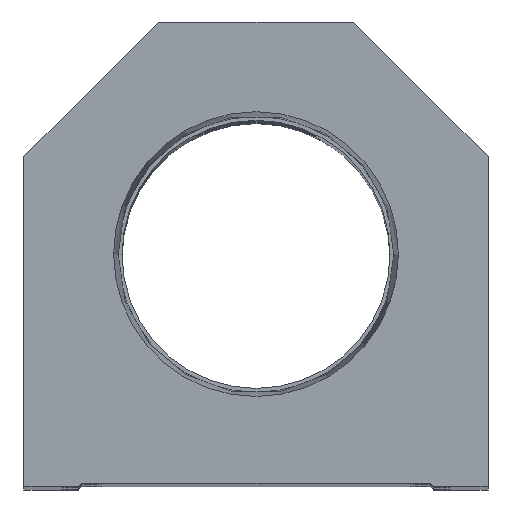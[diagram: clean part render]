
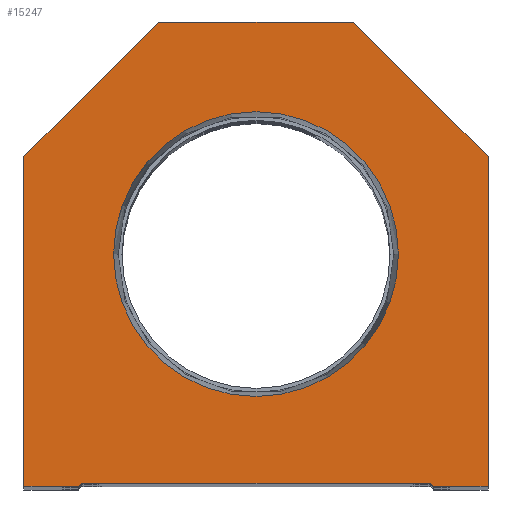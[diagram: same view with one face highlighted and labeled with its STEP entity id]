
A CAD part, top view. The second image highlights one B-rep face of the part: STEP entity #15247.
In plain terms, the highlighted planar face has unit normal (0, 0, 1).
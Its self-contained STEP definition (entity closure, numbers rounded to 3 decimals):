
#139 = CARTESIAN_POINT ( 'NONE',  ( 28.6, 0., 0. ) ) ;
#149 = DIRECTION ( 'NONE',  ( 0., 0., 1. ) ) ;
#168 = CARTESIAN_POINT ( 'NONE',  ( 38.1, 0., 0. ) ) ;
#424 = VECTOR ( 'NONE', #4513, 1000. ) ;
#433 = VERTEX_POINT ( 'NONE', #2419 ) ;
#736 = CARTESIAN_POINT ( 'NONE',  ( -14.55, 14.55, 0. ) ) ;
#828 = VERTEX_POINT ( 'NONE', #1946 ) ;
#1063 = VERTEX_POINT ( 'NONE', #7250 ) ;
#1253 = CARTESIAN_POINT ( 'NONE',  ( 38.1, 0., 0. ) ) ;
#1276 = LINE ( 'NONE', #4170, #12116 ) ;
#1285 = VERTEX_POINT ( 'NONE', #168 ) ;
#1426 = ORIENTED_EDGE ( 'NONE', *, *, #18277, .T. ) ;
#1560 = CARTESIAN_POINT ( 'NONE',  ( -28.6, 0., 0. ) ) ;
#1651 = AXIS2_PLACEMENT_3D ( 'NONE', #2929, #149, #6338 ) ;
#1935 = VECTOR ( 'NONE', #2610, 1000. ) ;
#1946 = CARTESIAN_POINT ( 'NONE',  ( -38.1, 54.1, 0. ) ) ;
#1950 = VECTOR ( 'NONE', #11466, 1000. ) ;
#1962 = CARTESIAN_POINT ( 'NONE',  ( 14.55, 14.55, 0. ) ) ;
#2306 = LINE ( 'NONE', #736, #14983 ) ;
#2419 = CARTESIAN_POINT ( 'NONE',  ( -28.6, 0.5, 0. ) ) ;
#2576 = VECTOR ( 'NONE', #2747, 1000. ) ;
#2610 = DIRECTION ( 'NONE',  ( 1., 0., 0. ) ) ;
#2695 = ORIENTED_EDGE ( 'NONE', *, *, #2775, .T. ) ;
#2747 = DIRECTION ( 'NONE',  ( 0., 1., 0. ) ) ;
#2756 = VERTEX_POINT ( 'NONE', #9316 ) ;
#2775 = EDGE_CURVE ( 'NONE', #1063, #15659, #1276, .T. ) ;
#2848 = VERTEX_POINT ( 'NONE', #3401 ) ;
#2853 = EDGE_LOOP ( 'NONE', ( #16579, #4028 ) ) ;
#2882 = LINE ( 'NONE', #1560, #1935 ) ;
#2929 = CARTESIAN_POINT ( 'NONE',  ( 0., 0., 0. ) ) ;
#2956 = EDGE_CURVE ( 'NONE', #15659, #828, #6217, .T. ) ;
#3401 = CARTESIAN_POINT ( 'NONE',  ( 29.1, 0., 0. ) ) ;
#3488 = ORIENTED_EDGE ( 'NONE', *, *, #11296, .T. ) ;
#3526 = DIRECTION ( 'NONE',  ( 0.707, 0.707, 0. ) ) ;
#3890 = CARTESIAN_POINT ( 'NONE',  ( -38.1, 0., 0. ) ) ;
#4028 = ORIENTED_EDGE ( 'NONE', *, *, #17393, .F. ) ;
#4145 = ORIENTED_EDGE ( 'NONE', *, *, #15908, .T. ) ;
#4170 = CARTESIAN_POINT ( 'NONE',  ( 16., 76.2, 0. ) ) ;
#4418 = LINE ( 'NONE', #139, #424 ) ;
#4513 = DIRECTION ( 'NONE',  ( 1., 0., 0. ) ) ;
#4541 = CARTESIAN_POINT ( 'NONE',  ( 38.1, 54.1, 0. ) ) ;
#5122 = DIRECTION ( 'NONE',  ( -1., 0., 0. ) ) ;
#5126 = EDGE_CURVE ( 'NONE', #433, #18194, #12191, .T. ) ;
#5372 = DIRECTION ( 'NONE',  ( 0., -1., 0. ) ) ;
#5802 = CARTESIAN_POINT ( 'NONE',  ( -23.374, 38.1, 0. ) ) ;
#5899 = VECTOR ( 'NONE', #7656, 1000. ) ;
#5987 = AXIS2_PLACEMENT_3D ( 'NONE', #15565, #8564, #14194 ) ;
#6217 = LINE ( 'NONE', #18141, #6818 ) ;
#6338 = DIRECTION ( 'NONE',  ( 1., 0., 0. ) ) ;
#6509 = EDGE_CURVE ( 'NONE', #18194, #2848, #7472, .T. ) ;
#6818 = VECTOR ( 'NONE', #9672, 1000. ) ;
#6853 = DIRECTION ( 'NONE',  ( 0., 0., 1. ) ) ;
#7040 = ORIENTED_EDGE ( 'NONE', *, *, #6509, .T. ) ;
#7143 = CARTESIAN_POINT ( 'NONE',  ( 28.6, 0.5, 0. ) ) ;
#7250 = CARTESIAN_POINT ( 'NONE',  ( 16., 76.2, 0. ) ) ;
#7472 = LINE ( 'NONE', #1962, #5899 ) ;
#7656 = DIRECTION ( 'NONE',  ( 0.707, -0.707, 0. ) ) ;
#7900 = AXIS2_PLACEMENT_3D ( 'NONE', #9728, #6853, #13614 ) ;
#8167 = LINE ( 'NONE', #1253, #2576 ) ;
#8411 = VECTOR ( 'NONE', #5372, 1000. ) ;
#8564 = DIRECTION ( 'NONE',  ( 0., 0., 1. ) ) ;
#8713 = FACE_BOUND ( 'NONE', #2853, .T. ) ;
#8737 = LINE ( 'NONE', #4541, #1950 ) ;
#9011 = EDGE_LOOP ( 'NONE', ( #18153, #11106, #11182, #7040, #3488, #4145, #1426, #2695, #18012, #10908 ) ) ;
#9168 = EDGE_CURVE ( 'NONE', #10803, #15255, #17223, .T. ) ;
#9316 = CARTESIAN_POINT ( 'NONE',  ( -38.1, 0., 0. ) ) ;
#9532 = CARTESIAN_POINT ( 'NONE',  ( -28.6, 0.5, 0. ) ) ;
#9672 = DIRECTION ( 'NONE',  ( -0.707, -0.707, 0. ) ) ;
#9728 = CARTESIAN_POINT ( 'NONE',  ( 0., 38.1, 0. ) ) ;
#10124 = CARTESIAN_POINT ( 'NONE',  ( 23.374, 38.1, 0. ) ) ;
#10248 = CIRCLE ( 'NONE', #7900, 23.374 ) ;
#10302 = EDGE_CURVE ( 'NONE', #828, #2756, #18039, .T. ) ;
#10803 = VERTEX_POINT ( 'NONE', #10124 ) ;
#10816 = VERTEX_POINT ( 'NONE', #14479 ) ;
#10908 = ORIENTED_EDGE ( 'NONE', *, *, #10302, .T. ) ;
#11106 = ORIENTED_EDGE ( 'NONE', *, *, #14976, .T. ) ;
#11182 = ORIENTED_EDGE ( 'NONE', *, *, #5126, .T. ) ;
#11296 = EDGE_CURVE ( 'NONE', #2848, #1285, #4418, .T. ) ;
#11466 = DIRECTION ( 'NONE',  ( -0.707, 0.707, 0. ) ) ;
#12116 = VECTOR ( 'NONE', #5122, 1000. ) ;
#12191 = LINE ( 'NONE', #9532, #12970 ) ;
#12938 = FACE_OUTER_BOUND ( 'NONE', #9011, .T. ) ;
#12970 = VECTOR ( 'NONE', #16545, 1000. ) ;
#13614 = DIRECTION ( 'NONE',  ( 1., 0., 0. ) ) ;
#13659 = VERTEX_POINT ( 'NONE', #18232 ) ;
#14194 = DIRECTION ( 'NONE',  ( 1., 0., 0. ) ) ;
#14479 = CARTESIAN_POINT ( 'NONE',  ( 38.1, 54.1, 0. ) ) ;
#14976 = EDGE_CURVE ( 'NONE', #13659, #433, #2306, .T. ) ;
#14983 = VECTOR ( 'NONE', #3526, 1000. ) ;
#15247 = ADVANCED_FACE ( 'NONE', ( #8713, #12938 ), #17617, .T. ) ;
#15255 = VERTEX_POINT ( 'NONE', #5802 ) ;
#15565 = CARTESIAN_POINT ( 'NONE',  ( 0., 38.1, 0. ) ) ;
#15659 = VERTEX_POINT ( 'NONE', #17039 ) ;
#15908 = EDGE_CURVE ( 'NONE', #1285, #10816, #8167, .T. ) ;
#16545 = DIRECTION ( 'NONE',  ( 1., 0., 0. ) ) ;
#16579 = ORIENTED_EDGE ( 'NONE', *, *, #9168, .F. ) ;
#17039 = CARTESIAN_POINT ( 'NONE',  ( -16., 76.2, 0. ) ) ;
#17223 = CIRCLE ( 'NONE', #5987, 23.374 ) ;
#17393 = EDGE_CURVE ( 'NONE', #15255, #10803, #10248, .T. ) ;
#17617 = PLANE ( 'NONE',  #1651 ) ;
#17846 = EDGE_CURVE ( 'NONE', #2756, #13659, #2882, .T. ) ;
#18012 = ORIENTED_EDGE ( 'NONE', *, *, #2956, .T. ) ;
#18039 = LINE ( 'NONE', #3890, #8411 ) ;
#18141 = CARTESIAN_POINT ( 'NONE',  ( -38.1, 54.1, 0. ) ) ;
#18153 = ORIENTED_EDGE ( 'NONE', *, *, #17846, .T. ) ;
#18194 = VERTEX_POINT ( 'NONE', #7143 ) ;
#18232 = CARTESIAN_POINT ( 'NONE',  ( -29.1, 0., 0. ) ) ;
#18277 = EDGE_CURVE ( 'NONE', #10816, #1063, #8737, .T. ) ;
